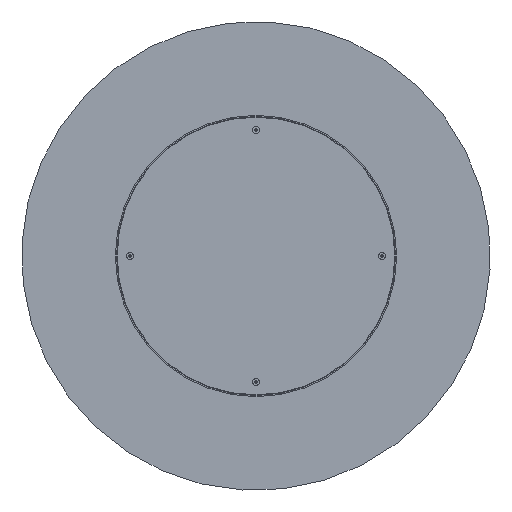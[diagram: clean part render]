
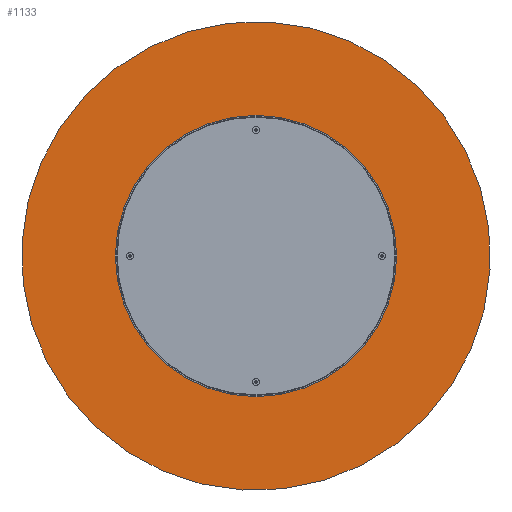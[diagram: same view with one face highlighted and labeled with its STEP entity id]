
A CAD part, front view. The second image highlights one B-rep face of the part: STEP entity #1133.
In plain terms, the highlighted planar face has unit normal (0, -1, 0).
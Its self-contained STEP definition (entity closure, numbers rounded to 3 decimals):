
#54 = DIRECTION ( 'NONE',  ( 0., 0., -1. ) ) ;
#145 = CARTESIAN_POINT ( 'NONE',  ( 0., 0., 0. ) ) ;
#322 = EDGE_CURVE ( 'NONE', #4195, #5152, #386, .T. ) ;
#386 = CIRCLE ( 'NONE', #4002, 400. ) ;
#630 = DIRECTION ( 'NONE',  ( 0., -1., 0. ) ) ;
#749 = EDGE_LOOP ( 'NONE', ( #3294, #2632 ) ) ;
#910 = CARTESIAN_POINT ( 'NONE',  ( 0., 0., 400. ) ) ;
#913 = EDGE_CURVE ( 'NONE', #5152, #4195, #2335, .T. ) ;
#1133 = ADVANCED_FACE ( 'NONE', ( #4073 ), #2072, .T. ) ;
#1138 = AXIS2_PLACEMENT_3D ( 'NONE', #4926, #3672, #54 ) ;
#1174 = DIRECTION ( 'NONE',  ( 0., 0., -1. ) ) ;
#1963 = CARTESIAN_POINT ( 'NONE',  ( 0., 0., 0. ) ) ;
#2072 = PLANE ( 'NONE',  #1138 ) ;
#2335 = CIRCLE ( 'NONE', #2510, 400. ) ;
#2510 = AXIS2_PLACEMENT_3D ( 'NONE', #1963, #3935, #1174 ) ;
#2632 = ORIENTED_EDGE ( 'NONE', *, *, #322, .T. ) ;
#2894 = CARTESIAN_POINT ( 'NONE',  ( 0., 0., -400. ) ) ;
#3294 = ORIENTED_EDGE ( 'NONE', *, *, #913, .T. ) ;
#3672 = DIRECTION ( 'NONE',  ( 0., -1., 0. ) ) ;
#3935 = DIRECTION ( 'NONE',  ( 0., -1., 0. ) ) ;
#4002 = AXIS2_PLACEMENT_3D ( 'NONE', #145, #630, #4193 ) ;
#4073 = FACE_OUTER_BOUND ( 'NONE', #749, .T. ) ;
#4193 = DIRECTION ( 'NONE',  ( 0., 0., -1. ) ) ;
#4195 = VERTEX_POINT ( 'NONE', #910 ) ;
#4926 = CARTESIAN_POINT ( 'NONE',  ( 0., 0., 0. ) ) ;
#5152 = VERTEX_POINT ( 'NONE', #2894 ) ;
